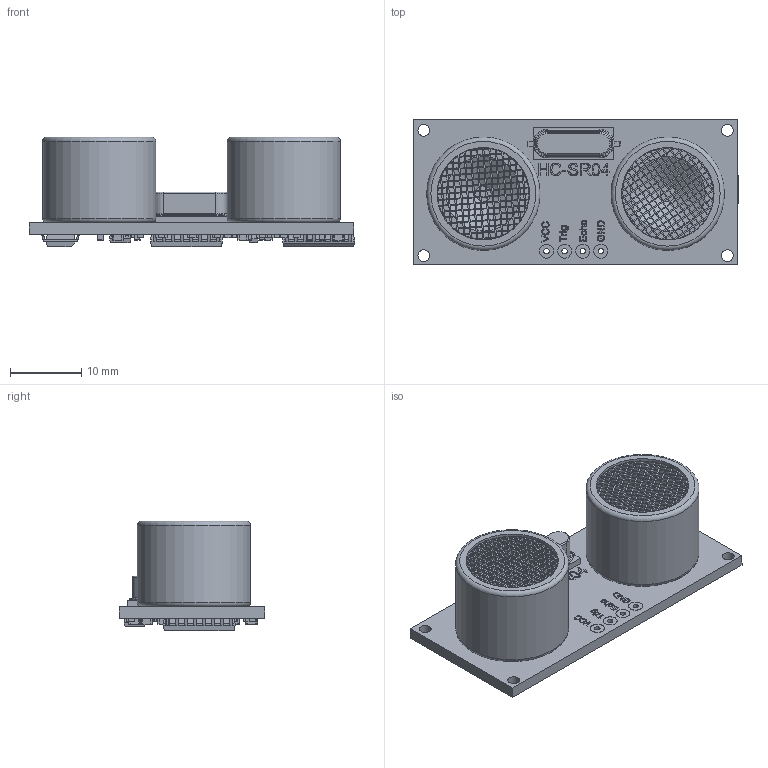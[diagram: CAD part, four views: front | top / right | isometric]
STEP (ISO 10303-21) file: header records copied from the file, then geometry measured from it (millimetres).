
FILE_DESCRIPTION(/* description */ ('Unknown'),/* implementation_level */ '2;1');
FILE_NAME(/* name */ 'HC-SR04',/* time_stamp */ '2018-10-29T20:07:51-04:00',/* author */ ('Unknown'),/* organization */ ('Unknown'),/* preprocessor_version */ 'ST-DEVELOPER v16.7',/* originating_system */ 'DEX',/* authorisation */ $);
FILE_SCHEMA (('AUTOMOTIVE_DESIGN {1 0 10303 214 3 1 1}'));
Length unit declared in the file: millimetre
Products named in the file (9): HC-SR04; Board; SOT23; 0603 Resistor; SOIC16 narrow; Crystal Oscillator (SMD); 0603 Capacitor; Transducer; Mesh
Assembly tree (48 placements, depth 2):
  HC-SR04
    Board
    SOT23  x2
    0603 Resistor  x21
    SOIC16 narrow  x3
    Crystal Oscillator (SMD)
    0603 Capacitor  x17
    Transducer
    Mesh  x2
Bounding box: 45.62 x 20.4 x 15.39 mm (x, y, z)
Volume: 4473.2 mm3; surface area: 7609.9 mm2
Topology: 49 solids, 69 shells, 5876 faces, 14860 edges, 9453 vertices
Faces by surface type: plane 4128, cylinder 788, bspline 754, sphere 192, torus 10, cone 4
Full cylindrical faces by diameter (mm): 0.762 x4, 1.651 x4, 1.963 x8, 10.497 x2, 12.8 x2, 12.979 x2, 14.247 x2, 15.9 x2
Entity records: 109164 total; most frequent: CARTESIAN_POINT 29674, ORIENTED_EDGE 14524, DIRECTION 11892, EDGE_CURVE 7262, LINE 5652, VECTOR 5652, VERTEX_POINT 4726, EDGE_LOOP 3322
